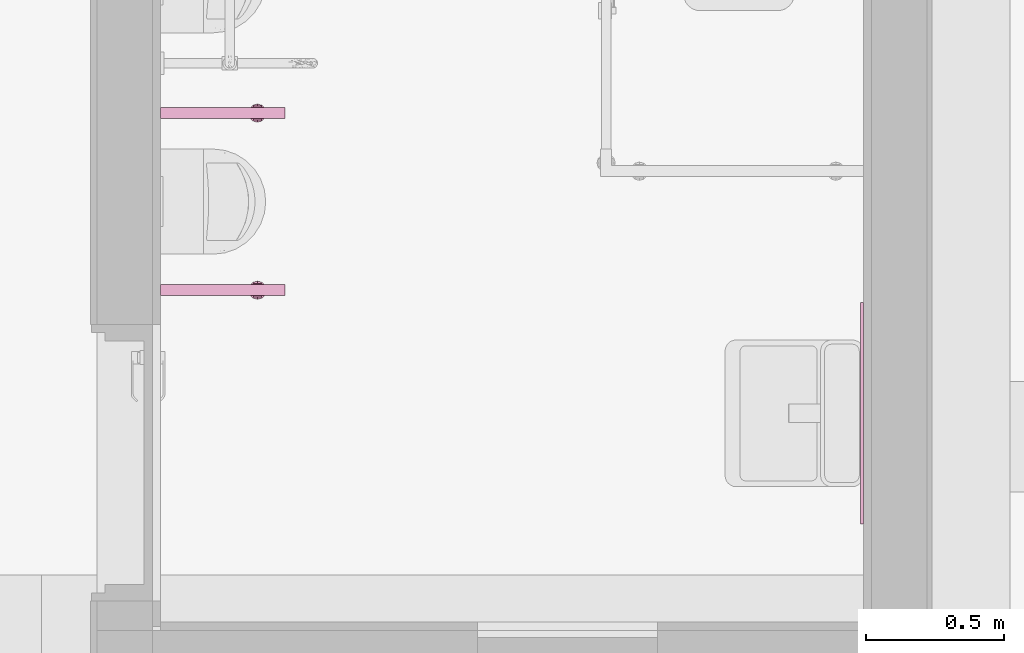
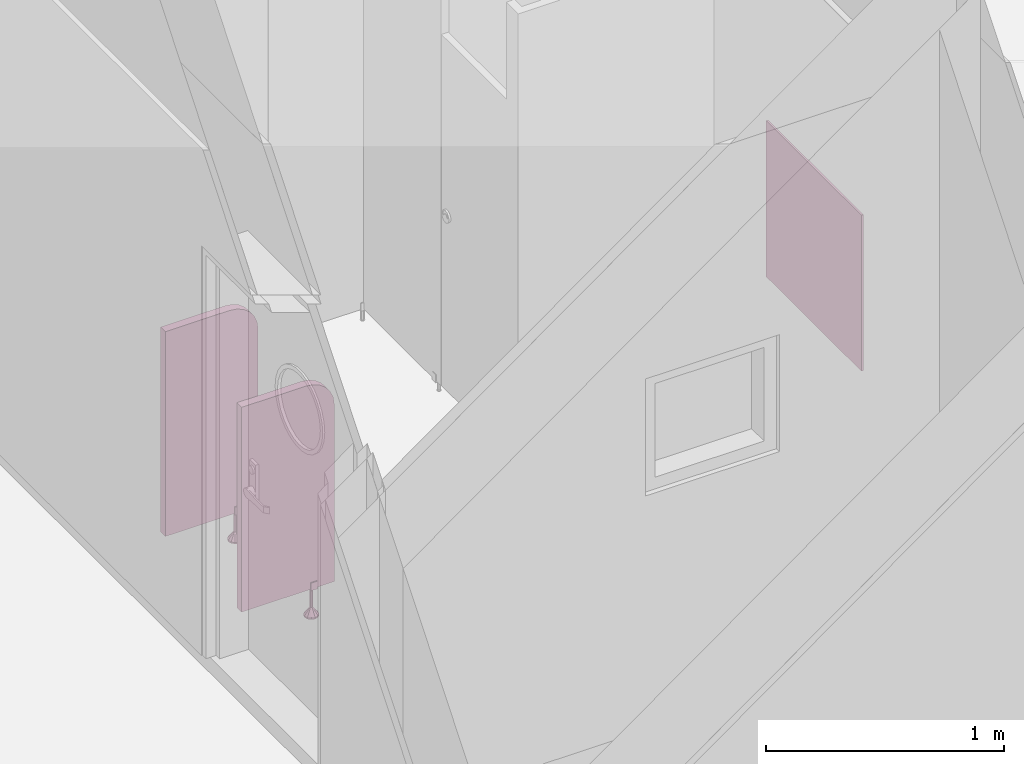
# One storey, part 77 of 81: 3 furnishings.
"""IFC2X3 building model written with IfcOpenShell, lengths in millimetres."""

from ifc_helpers import new_model, entity, si_unit, converted_unit, derived_unit, direction, frame, origin, origin_2d_with_axis, place, context, subcontext, project, spatial, rectangle, extrude, faceted_brep, source, transform, mapped, material, material_list, type_object, type_shapes, element, save


model = new_model("IFC2X3")

# Units and contexts
model_context = context("Model", 3, precision=0.01, world=origin(), true_north=direction((6.123031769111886e-17, 1.0)))
body_context = subcontext(model_context, "Body", "Model", "MODEL_VIEW")
ifc_project = project(units=[si_unit("LENGTHUNIT", "METRE", prefix="MILLI"), si_unit("AREAUNIT", "SQUARE_METRE"), si_unit("VOLUMEUNIT", "CUBIC_METRE"), converted_unit("PLANEANGLEUNIT", "DEGREE", entity("IfcRatioMeasure", 0.017453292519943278), si_unit("PLANEANGLEUNIT", "RADIAN"), dimensions=[0, 0, 0, 0, 0, 0, 0]), si_unit("MASSUNIT", "GRAM", prefix="KILO"), derived_unit("MASSDENSITYUNIT", [(si_unit("MASSUNIT", "GRAM", prefix="KILO"), 1), (si_unit("LENGTHUNIT", "METRE"), -3)]), derived_unit("MOMENTOFINERTIAUNIT", [(si_unit("LENGTHUNIT", "METRE"), 4)]), si_unit("TIMEUNIT", "SECOND"), si_unit("FREQUENCYUNIT", "HERTZ"), si_unit("THERMODYNAMICTEMPERATUREUNIT", "DEGREE_CELSIUS"), derived_unit("THERMALTRANSMITTANCEUNIT", [(si_unit("MASSUNIT", "GRAM", prefix="KILO"), 1), (si_unit("THERMODYNAMICTEMPERATUREUNIT", "KELVIN"), -1), (si_unit("TIMEUNIT", "SECOND"), -3)]), derived_unit("VOLUMETRICFLOWRATEUNIT", [(si_unit("LENGTHUNIT", "METRE"), 3), (si_unit("TIMEUNIT", "SECOND"), -1)]), derived_unit("MASSFLOWRATEUNIT", [(si_unit("MASSUNIT", "GRAM", prefix="KILO"), 1), (si_unit("TIMEUNIT", "SECOND"), -1)]), derived_unit("ROTATIONALFREQUENCYUNIT", [(si_unit("TIMEUNIT", "SECOND"), -1)]), si_unit("ELECTRICCURRENTUNIT", "AMPERE"), si_unit("ELECTRICVOLTAGEUNIT", "VOLT"), si_unit("POWERUNIT", "WATT"), si_unit("FORCEUNIT", "NEWTON", prefix="KILO"), si_unit("ILLUMINANCEUNIT", "LUX"), si_unit("LUMINOUSFLUXUNIT", "LUMEN"), si_unit("LUMINOUSINTENSITYUNIT", "CANDELA"), derived_unit("USERDEFINED", [(si_unit("MASSUNIT", "GRAM", prefix="KILO"), -1), (si_unit("LENGTHUNIT", "METRE"), -2), (si_unit("TIMEUNIT", "SECOND"), 3), (si_unit("LUMINOUSFLUXUNIT", "LUMEN"), 1)]), derived_unit("SOUNDPOWERUNIT", [(si_unit("MASSUNIT", "GRAM", prefix="KILO"), 1), (si_unit("LENGTHUNIT", "METRE"), 2), (si_unit("TIMEUNIT", "SECOND"), -3)]), derived_unit("SOUNDPRESSUREUNIT", [(si_unit("MASSUNIT", "GRAM", prefix="KILO"), 1), (si_unit("LENGTHUNIT", "METRE"), -1), (si_unit("TIMEUNIT", "SECOND"), -2)]), derived_unit("LINEARVELOCITYUNIT", [(si_unit("LENGTHUNIT", "METRE"), 1), (si_unit("TIMEUNIT", "SECOND"), -1)]), si_unit("PRESSUREUNIT", "PASCAL"), derived_unit("USERDEFINED", [(si_unit("LENGTHUNIT", "METRE"), -2), (si_unit("MASSUNIT", "GRAM", prefix="KILO"), 1), (si_unit("TIMEUNIT", "SECOND"), -2)]), derived_unit("LINEARFORCEUNIT", [(si_unit("MASSUNIT", "GRAM", prefix="KILO"), 1), (si_unit("LENGTHUNIT", "METRE"), 1), (si_unit("TIMEUNIT", "SECOND"), -2), (si_unit("LENGTHUNIT", "METRE"), -1)]), derived_unit("PLANARFORCEUNIT", [(si_unit("MASSUNIT", "GRAM", prefix="KILO"), 1), (si_unit("LENGTHUNIT", "METRE"), 1), (si_unit("TIMEUNIT", "SECOND"), -2), (si_unit("LENGTHUNIT", "METRE"), -2)])], contexts=[model_context])

# Site, building, storey, space
site_placement = place(None, frame((-14167.972527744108, -657.2125860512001, 0.0)))
site = spatial("IfcSite", under=ifc_project, at=site_placement, Name="Default", CompositionType="ELEMENT")
building_placement = place(site_placement, origin())
building = spatial("IfcBuilding", under=site, at=building_placement, Name="Sample Building", CompositionType="ELEMENT")
storey_placement = place(building_placement, frame((0.0, 0.0, 13400.0)))
storey = spatial("IfcBuildingStorey", under=building, at=storey_placement, Name="지상 4층", CompositionType="ELEMENT", Elevation=13400.00000000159)
space_placement = place(storey_placement, origin())
space = spatial("IfcSpace", under=storey, at=space_placement, Name="221", CompositionType="ELEMENT", InteriorOrExteriorSpace="INTERNAL")

# Furnishings
ifc_material_1 = material(Name="KBIMS-거울")
furniture_type_1 = type_object("IfcFurnitureType", Name="PF531-거울:PF531-거울 800x800", material=ifc_material_1)
shared_shape_1 = source(origin(), body_context, "Body", "SweptSolid", [
    extrude(rectangle(XDim=10.000000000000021, YDim=799.9999999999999, at=origin_2d_with_axis()), frame((0.0, 5.0, 0.0), z_axis=(0.0, 0.0, 1.0), x_axis=(0.0, 1.0, 0.0)), (0.0, 0.0, 1.0), 800.0000000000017),
])
type_shapes(furniture_type_1, [shared_shape_1])
furnishing_1_placement = place(space_placement, frame((40737.96375501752, 23242.21230182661, 1000.0), z_axis=(0.0, 0.0, 1.0), x_axis=(0.0, 1.0, 0.0)))
element("IfcFurnishingElement", 1, at=furnishing_1_placement, inside=space, type_object=furniture_type_1, material=ifc_material_1, Name="PF531-거울:PF531-거울 800x800", ObjectType="PF531-거울:PF531-거울 800x800", context=body_context, shape_type="MappedRepresentation", body=[
    mapped(shared_shape_1, transform((0.0, 0.0, 0.0), scale=1.0)),
])
ifc_material_2 = material(Name="KBIMS-스테인리스 스틸_도금")
ifc_material_3 = material(Name="KBIMS-이동식칸막이")
ifc_material_list_1 = material_list([ifc_material_2, ifc_material_3])
ifc_material_list_2 = material_list([ifc_material_2, ifc_material_2, ifc_material_3])
furniture_type_2 = type_object("IfcFurnitureType", Name="PF582-소변기 칸막이:PF582-소변기 칸막이", material=ifc_material_list_2)
shared_shape_2 = source(origin(), body_context, "Body", "Brep", [
    faceted_brep([(-25.0, -365.0, 145.0), (25.0, -365.0, 145.0), (25.0, -365.0, 185.0), (20.0, -365.0, 185.0), (20.0, -365.0, 150.0), (-20.0, -365.0, 150.0), (-20.0, -365.0, 185.0), (-25.0, -365.0, 185.0), (-25.0, -335.0, 145.0), (-25.0, -335.0, 185.0), (-20.0, -335.0, 185.0), (-20.0, -335.0, 150.0), (20.0, -335.0, 150.0), (20.0, -335.0, 185.0), (25.0, -335.0, 185.0), (25.0, -335.0, 145.0)], [[[0, 1, 2, 3, 4, 5, 6, 7]], [[8, 9, 10, 11, 12, 13, 14, 15]], [[1, 0, 8, 15]], [[2, 1, 15, 14]], [[3, 2, 14, 13]], [[4, 3, 13, 12]], [[5, 4, 12, 11]], [[6, 5, 11, 10]], [[7, 6, 10, 9]], [[0, 7, 9, 8]]]),
    faceted_brep([(-22.500526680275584, -327.4994733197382, 7.2339182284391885), (-4.687500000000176, -345.1286071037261, 43.5703700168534), (-3.7500000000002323, -343.5048094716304, 43.5703700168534), (-6.562500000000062, -348.3762023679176, 43.5703700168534), (-5.625000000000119, -346.7524047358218, 43.5703700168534), (-30.736291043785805, -341.7642356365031, 7.233918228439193), (-28.529524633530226, -333.5284712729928, 7.2339182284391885), (-32.94305745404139, -350.0, 7.233918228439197), (-7.500000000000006, -350.0, 43.5703700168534), (-8.235764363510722, -319.26370895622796, 7.2339182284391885), (-16.47152872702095, -321.4704753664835, 7.2339182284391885), (-1.8750000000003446, -343.5048094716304, 43.5703700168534), (0.0, -343.5048094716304, 43.5703700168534), (0.0, -317.0569425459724, 7.2339182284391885), (3.7499999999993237, -343.5048094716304, 43.5703700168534), (16.471528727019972, -321.47047536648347, 7.2339182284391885), (1.8749999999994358, -343.5048094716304, 43.5703700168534), (8.235764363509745, -319.2637089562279, 7.2339182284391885), (-31.34057496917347, -344.019453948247, 7.2339182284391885), (32.943057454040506, -350.0, 7.2339182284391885), (6.56249999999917, -348.3762023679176, 43.5703700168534), (7.499999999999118, -350.0, 43.5703700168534), (4.687499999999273, -345.1286071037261, 43.5703700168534), (5.62499999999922, -346.7524047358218, 43.5703700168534), (22.50052668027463, -327.4994733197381, 7.2339182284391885), (30.339293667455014, -340.2826212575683, 7.2339182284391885), (28.529524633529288, -333.52847127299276, 7.2339182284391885), (30.73629104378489, -341.764235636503, 7.2339182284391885), (3.7499999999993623, -356.4951905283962, 43.5703700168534), (16.471528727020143, -378.52952463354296, 7.2339182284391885), (22.50052668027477, -372.5005266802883, 7.2339182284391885), (0.0, -356.4951905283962, 43.5703700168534), (8.235764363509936, -380.73629104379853, 7.2339182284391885), (1.8749999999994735, -356.4951905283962, 43.5703700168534), (-3.7500000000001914, -356.4951905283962, 43.5703700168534), (-8.23576436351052, -380.7362910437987, 7.2339182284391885), (-1.8750000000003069, -356.4951905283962, 43.5703700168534), (6.562499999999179, -351.623797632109, 43.5703700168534), (5.62499999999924, -353.24759526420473, 43.5703700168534), (30.73629104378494, -358.23576436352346, 7.233918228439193), (4.687499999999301, -354.87139289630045, 43.5703700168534), (-22.500526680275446, -372.50052668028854, 7.2339182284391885), (-16.471528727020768, -378.5295246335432, 7.2339182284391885), (-4.687500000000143, -354.87139289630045, 43.5703700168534), (0.0, -382.9430574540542, 7.2339182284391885), (-5.625000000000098, -353.24759526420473, 43.5703700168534), (-6.562500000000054, -351.623797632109, 43.5703700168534), (-28.529524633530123, -366.47152872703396, 7.2339182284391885), (-30.339293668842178, -359.7173787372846, 7.2339182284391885), (31.340574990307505, -355.980545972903, 7.2339182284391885), (28.529524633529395, -366.4715287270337, 7.2339182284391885), (-30.73629104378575, -358.23576436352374, 7.2339182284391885), (-28.52952463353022, -333.5284712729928, 0.0), (-30.7362910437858, -341.7642356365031, 0.0), (-32.94305745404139, -350.0, 0.0), (-16.471528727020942, -321.4704753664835, 0.0), (-22.500526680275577, -327.4994733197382, 0.0), (0.0, -317.0569425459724, 0.0), (-8.235764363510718, -319.26370895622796, 0.0), (16.47152872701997, -321.47047536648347, 0.0), (8.235764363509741, -319.2637089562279, 0.0), (28.52952463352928, -333.52847127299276, 0.0), (22.500526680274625, -327.4994733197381, 0.0), (32.9430574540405, -350.0, 0.0), (31.340574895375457, -344.01945367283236, 0.0), (28.529524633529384, -366.4715287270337, 0.0), (30.73629104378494, -358.23576436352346, 0.0), (16.47152872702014, -378.52952463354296, 0.0), (22.500526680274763, -372.5005266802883, 0.0), (0.0, -382.9430574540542, 0.0), (8.235764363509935, -380.73629104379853, 0.0), (-16.471528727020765, -378.5295246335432, 0.0), (-8.235764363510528, -380.7362910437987, 0.0), (-28.529524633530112, -366.47152872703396, 0.0), (-22.500526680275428, -372.50052668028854, 0.0), (-31.340574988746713, -355.98054597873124, 0.0), (0.0, -350.0, 0.0), (0.0, -350.0, 145.0), (7.49999999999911, -350.0, 145.0), (3.749999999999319, -343.5048094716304, 145.0), (-3.7500000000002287, -343.5048094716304, 145.0), (-7.499999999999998, -350.0, 145.0), (3.7499999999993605, -356.4951905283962, 145.0), (-3.7500000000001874, -356.4951905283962, 145.0)], [[[0, 1, 2]], [[3, 4, 5]], [[6, 1, 0]], [[6, 4, 1]], [[7, 8, 3]], [[9, 10, 11]], [[12, 13, 9]], [[14, 15, 16]], [[10, 2, 11]], [[12, 17, 13]], [[17, 12, 16]], [[12, 9, 11]], [[3, 5, 18, 7]], [[19, 20, 21]], [[15, 14, 22]], [[22, 23, 24]], [[25, 26, 23]], [[4, 6, 5]], [[2, 10, 0]], [[16, 15, 17]], [[20, 19, 27, 25]], [[25, 23, 20]], [[23, 26, 24]], [[15, 22, 24]], [[28, 29, 30]], [[31, 32, 33]], [[34, 35, 36]], [[37, 38, 39]], [[30, 40, 28]], [[41, 42, 43]], [[32, 29, 33]], [[31, 44, 32]], [[19, 21, 37]], [[36, 35, 44]], [[34, 42, 35]], [[45, 41, 43]], [[7, 46, 8]], [[42, 34, 43]], [[45, 47, 41]], [[48, 47, 45]], [[37, 39, 49, 19]], [[38, 50, 39]], [[38, 40, 50]], [[29, 28, 33]], [[50, 40, 30]], [[44, 31, 36]], [[46, 7, 51, 48]], [[48, 45, 46]], [[52, 53, 54, 7, 18, 5, 6]], [[10, 55, 56, 52, 6, 0]], [[55, 10, 9, 13, 57, 58]], [[15, 59, 60, 57, 13, 17]], [[26, 61, 62, 59, 15, 24]], [[61, 26, 25, 27, 19, 63, 64]], [[65, 66, 63, 19, 49, 39, 50]], [[29, 67, 68, 65, 50, 30]], [[67, 29, 32, 44, 69, 70]], [[42, 71, 72, 69, 44, 35]], [[47, 73, 74, 71, 42, 41]], [[73, 47, 48, 51, 7, 54, 75]], [[76, 61, 64]], [[76, 64, 63]], [[76, 63, 66]], [[76, 62, 61]], [[76, 59, 62]], [[76, 60, 59]], [[76, 57, 60]], [[76, 58, 57]], [[76, 55, 58]], [[76, 56, 55]], [[76, 52, 56]], [[76, 53, 52]], [[76, 54, 53]], [[76, 66, 65]], [[76, 65, 68]], [[76, 68, 67]], [[76, 67, 70]], [[76, 70, 69]], [[76, 69, 72]], [[76, 75, 54]], [[76, 73, 75]], [[76, 74, 73]], [[76, 71, 74]], [[76, 72, 71]], [[77, 78, 79]], [[79, 80, 77]], [[80, 81, 77]], [[77, 82, 78]], [[81, 83, 77]], [[82, 77, 83]], [[81, 80, 2, 1, 4, 3, 8]], [[80, 79, 14, 16, 12, 11, 2]], [[79, 78, 21, 20, 23, 22, 14]], [[78, 82, 28, 40, 38, 37, 21]], [[82, 83, 34, 36, 31, 33, 28]], [[83, 81, 8, 46, 45, 43, 34]]]),
    faceted_brep([(20.0, 0.0, 150.0), (20.0, 0.0, 1200.0), (20.0, -310.0, 1200.0), (20.0, -346.2346663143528, 1195.2296156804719), (20.0, -380.0, 1181.2435565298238), (20.0, -408.9949493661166, 1158.9949493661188), (20.0, -431.2435565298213, 1130.0), (20.0, -445.2296156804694, 1096.234666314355), (20.0, -450.0, 1060.0), (20.0, -450.0, 150.0), (-20.0, -431.2435565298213, 1130.0), (-20.0, -408.9949493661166, 1158.9949493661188), (-20.0, -380.0, 1181.2435565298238), (-20.0, -346.2346663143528, 1195.2296156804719), (-20.0, -310.0, 1200.0), (-20.0, 0.0, 1200.0), (-20.0, 0.0, 150.0), (-20.0, -450.0, 150.0), (-20.0, -450.0, 1060.0), (-20.0, -445.2296156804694, 1096.234666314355)], [[[0, 1, 2, 3, 4, 5, 6, 7, 8, 9]], [[10, 11, 12, 13, 14, 15, 16, 17, 18, 19]], [[2, 1, 15, 14]], [[3, 2, 14, 13]], [[4, 3, 13, 12]], [[5, 4, 12, 11]], [[6, 5, 11, 10]], [[7, 6, 10, 19]], [[8, 7, 19, 18]], [[9, 8, 18, 17]], [[0, 9, 17, 16]], [[1, 0, 16, 15]]]),
])
type_shapes(furniture_type_2, [shared_shape_2])
furnishing_2_placement = place(space_placement, frame((38197.963755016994, 24327.099955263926, 0.0), z_axis=(0.0, 0.0, 1.0), x_axis=(0.0, 1.0, 0.0)))
element("IfcFurnishingElement", 2, at=furnishing_2_placement, inside=space, type_object=furniture_type_2, material=ifc_material_list_1, Name="PF582-소변기 칸막이:PF582-소변기 칸막이", ObjectType="PF582-소변기 칸막이:PF582-소변기 칸막이", context=body_context, shape_type="MappedRepresentation", body=[
    mapped(shared_shape_2, transform((0.0, 0.0, 0.0), scale=1.0)),
])
ifc_material_list_3 = material_list([ifc_material_2, ifc_material_3])
furnishing_3_placement = place(space_placement, frame((38197.963755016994, 23687.099955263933, 0.0), z_axis=(0.0, 0.0, 1.0), x_axis=(0.0, 1.0, 0.0)))
element("IfcFurnishingElement", 3, at=furnishing_3_placement, inside=space, type_object=furniture_type_2, material=ifc_material_list_3, Name="PF582-소변기 칸막이:PF582-소변기 칸막이", ObjectType="PF582-소변기 칸막이:PF582-소변기 칸막이", context=body_context, shape_type="MappedRepresentation", body=[
    mapped(shared_shape_2, transform((0.0, 0.0, 0.0), scale=1.0)),
])

save(model, "model.ifc")
